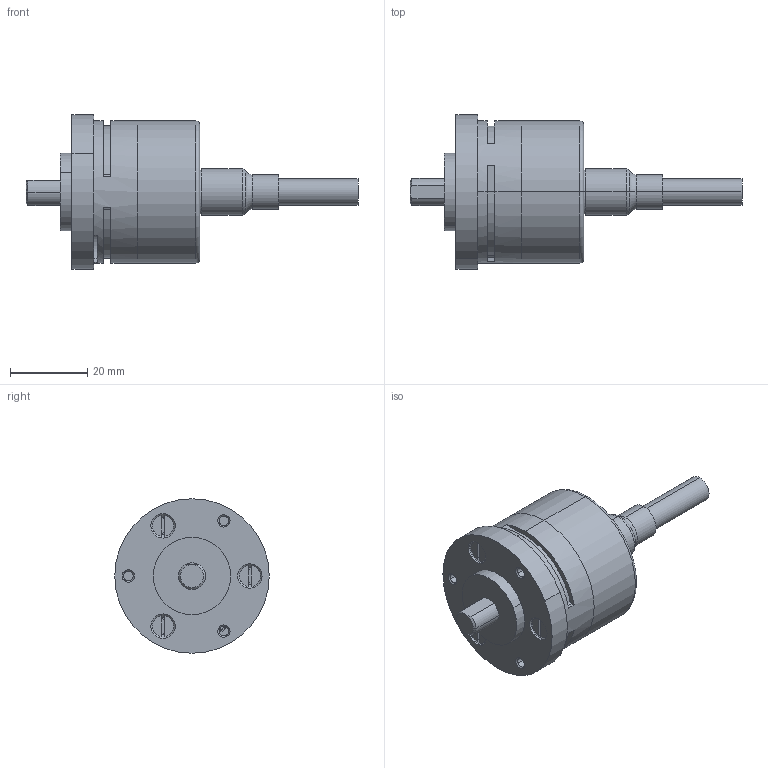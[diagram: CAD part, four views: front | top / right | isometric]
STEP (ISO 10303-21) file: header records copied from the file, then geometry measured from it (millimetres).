
FILE_DESCRIPTION (( 'STEP AP214' ), '1' );
FILE_NAME ('3700.A5X1.XXXX.STEP', '2008-11-25T08:55:27', ( 'admin' ), ( 'Fritz Kübler GmbH' ), 'SwSTEP 2.0', 'SolidWorks 2008', '' );
FILE_SCHEMA (( 'AUTOMOTIVE_DESIGN' ));
Length unit declared in the file: millimetre
Products named in the file (1): 3700.A5X1.XXXX
Bounding box: 86 x 40 x 40 mm (x, y, z)
Volume: 21008.3 mm3; surface area: 20449.2 mm2
Topology: 9 solids, 9 shells, 559 faces, 1326 edges, 801 vertices
Faces by surface type: cylinder 235, plane 138, torus 88, cone 46, bspline 27, sphere 25
Entity records: 23222 total; most frequent: CARTESIAN_POINT 4022, DIRECTION 2930, ORIENTED_EDGE 2606, EDGE_CURVE 1303, AXIS2_PLACEMENT_3D 1242, VERTEX_POINT 791, CIRCLE 709, EDGE_LOOP 608
